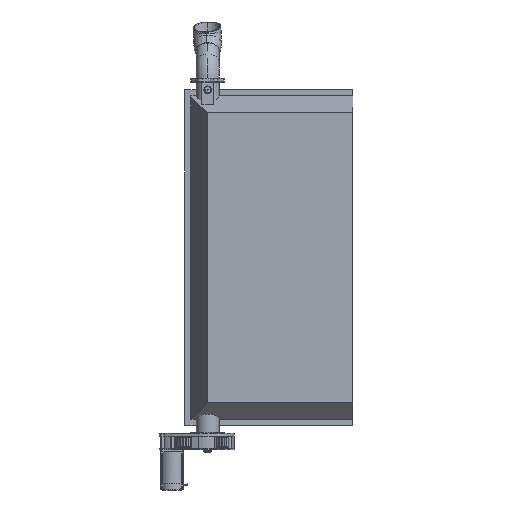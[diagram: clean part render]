
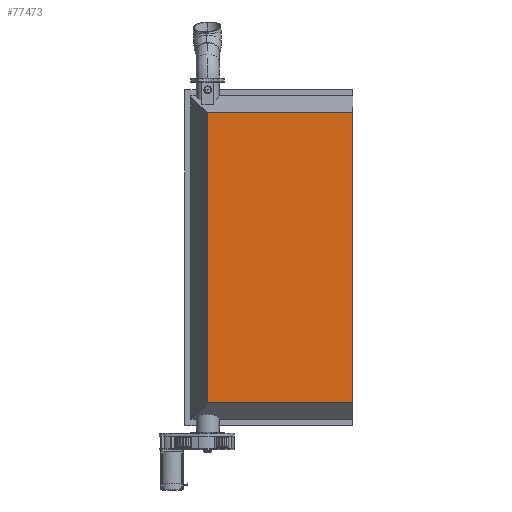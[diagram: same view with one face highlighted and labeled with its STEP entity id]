
A CAD part, front view. The second image highlights one B-rep face of the part: STEP entity #77473.
In plain terms, the highlighted planar face has unit normal (0, -1, 0).
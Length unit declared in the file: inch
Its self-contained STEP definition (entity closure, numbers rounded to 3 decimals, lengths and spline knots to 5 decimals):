
#957 = CARTESIAN_POINT ( 'NONE',  ( 0., -4.35, 19.0208 ) ) ;
#3341 = ORIENTED_EDGE ( 'NONE', *, *, #65986, .T. ) ;
#13797 = CARTESIAN_POINT ( 'NONE',  ( 2.9792, -4.35, 19.0208 ) ) ;
#16722 = FACE_OUTER_BOUND ( 'NONE', #57036, .T. ) ;
#25735 = VERTEX_POINT ( 'NONE', #90819 ) ;
#31860 = VECTOR ( 'NONE', #126011, 39.37008 ) ;
#37735 = LINE ( 'NONE', #76833, #111696 ) ;
#38446 = LINE ( 'NONE', #957, #59948 ) ;
#40231 = ORIENTED_EDGE ( 'NONE', *, *, #53547, .F. ) ;
#41603 = EDGE_CURVE ( 'NONE', #25735, #150490, #145611, .T. ) ;
#51111 = LINE ( 'NONE', #127653, #31860 ) ;
#53547 = EDGE_CURVE ( 'NONE', #153969, #97290, #38446, .T. ) ;
#57036 = EDGE_LOOP ( 'NONE', ( #130192, #90444, #40231, #3341 ) ) ;
#59948 = VECTOR ( 'NONE', #124233, 39.37008 ) ;
#65986 = EDGE_CURVE ( 'NONE', #153969, #25735, #37735, .T. ) ;
#67513 = PLANE ( 'NONE',  #118152 ) ;
#68393 = EDGE_CURVE ( 'NONE', #97290, #150490, #51111, .T. ) ;
#76833 = CARTESIAN_POINT ( 'NONE',  ( 2.9792, -4.35, 22. ) ) ;
#77473 = ADVANCED_FACE ( 'NONE', ( #16722 ), #67513, .F. ) ;
#82371 = CARTESIAN_POINT ( 'NONE',  ( 0., -4.35, -19.0208 ) ) ;
#89474 = CARTESIAN_POINT ( 'NONE',  ( 22., -4.35, 19.0208 ) ) ;
#90444 = ORIENTED_EDGE ( 'NONE', *, *, #68393, .F. ) ;
#90819 = CARTESIAN_POINT ( 'NONE',  ( 2.9792, -4.35, -19.0208 ) ) ;
#91568 = DIRECTION ( 'NONE',  ( 1., 0., 0. ) ) ;
#97290 = VERTEX_POINT ( 'NONE', #89474 ) ;
#105792 = DIRECTION ( 'NONE',  ( 0., 1., 0. ) ) ;
#111696 = VECTOR ( 'NONE', #141719, 39.37008 ) ;
#118152 = AXIS2_PLACEMENT_3D ( 'NONE', #118241, #105792, #131580 ) ;
#118241 = CARTESIAN_POINT ( 'NONE',  ( 3.04048, -4.35, 22. ) ) ;
#124233 = DIRECTION ( 'NONE',  ( 1., 0., 0. ) ) ;
#126011 = DIRECTION ( 'NONE',  ( 0., 0., -1. ) ) ;
#127653 = CARTESIAN_POINT ( 'NONE',  ( 22., -4.35, 18.95952 ) ) ;
#130192 = ORIENTED_EDGE ( 'NONE', *, *, #41603, .T. ) ;
#131580 = DIRECTION ( 'NONE',  ( 0., 0., 1. ) ) ;
#141719 = DIRECTION ( 'NONE',  ( 0., 0., -1. ) ) ;
#144436 = VECTOR ( 'NONE', #91568, 39.37008 ) ;
#145611 = LINE ( 'NONE', #82371, #144436 ) ;
#150490 = VERTEX_POINT ( 'NONE', #153666 ) ;
#153666 = CARTESIAN_POINT ( 'NONE',  ( 22., -4.35, -19.0208 ) ) ;
#153969 = VERTEX_POINT ( 'NONE', #13797 ) ;
